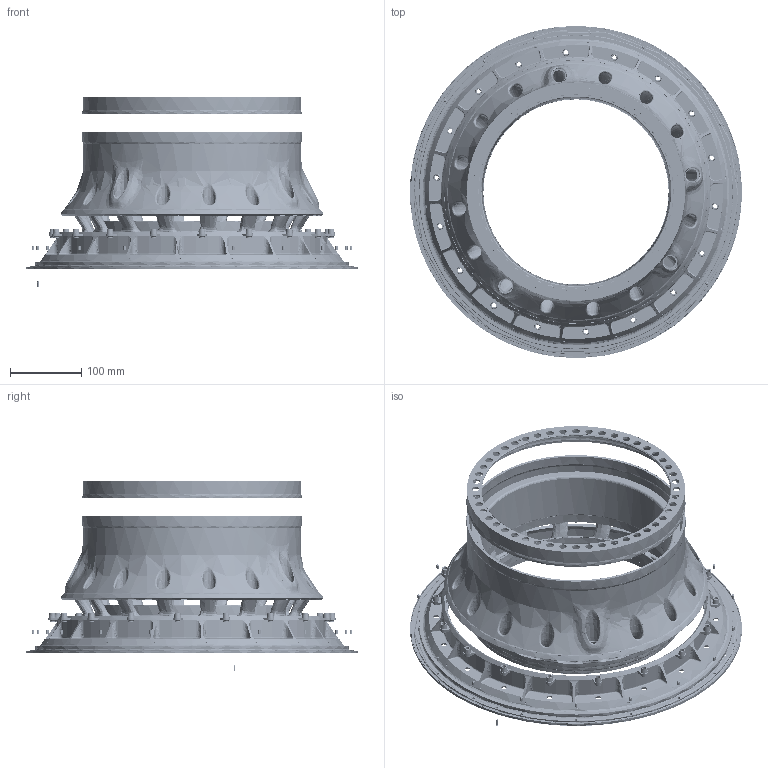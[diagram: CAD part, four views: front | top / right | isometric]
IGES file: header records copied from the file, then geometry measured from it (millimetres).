
Global section: file name: C:\Users\NIEVES\Box\Engineering\Nieves\Air Show Models\2726M26G02\Exploded\2726M26G02 Exploded iges\2726M26G02.igs; native system: NX V12.0; preprocessor: SIEMENS PLM Software NX 12.0; date: 20260911.064304; units: millimetre
Bounding box: 465.58 x 465.58 x 267.56 mm (x, y, z)
Surface area: 1938258 mm2 (no closed solid volume)
Topology: 0 solids, 0 shells, 2507 faces, 19289 edges, 18656 vertices
Faces by surface type: bspline 2462, offset 45
